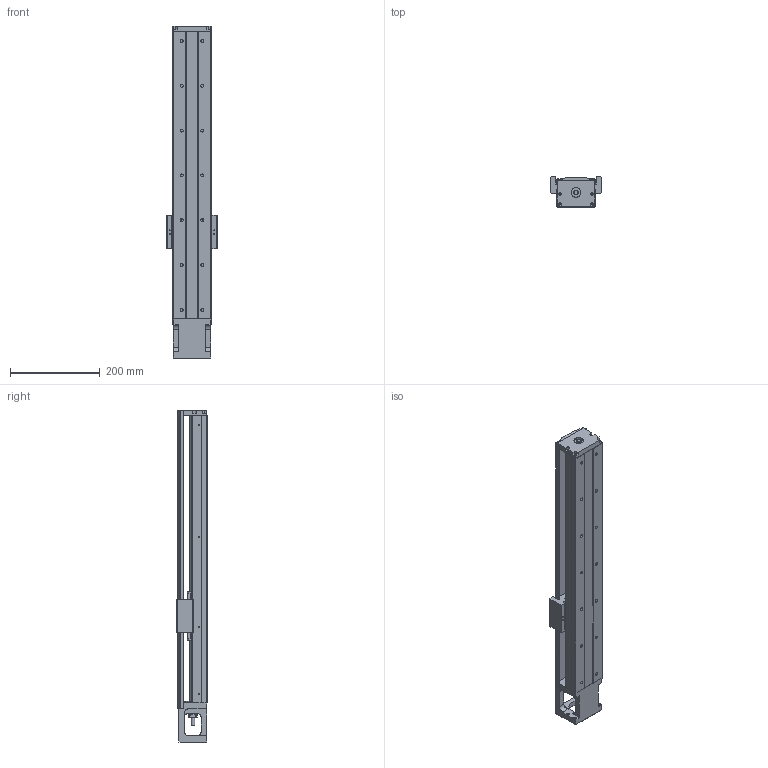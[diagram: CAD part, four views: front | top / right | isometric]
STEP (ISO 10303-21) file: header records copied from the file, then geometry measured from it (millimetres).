
FILE_DESCRIPTION(/* description */ (''),/* implementation_level */ '2;1');
FILE_NAME(/* name */ '46L-640C.stp',/* time_stamp */ '2016-12-20T13:59:42+08:00',/* author */ (''),/* organization */ (''),/* preprocessor_version */ 'ST-DEVELOPER v11',/* originating_system */ 'SIEMENS UGS NX 6.0',/* authorisation */ '');
FILE_SCHEMA (('AUTOMOTIVE_DESIGN { 1 0 10303 214 1 1 1 1 }'));
Length unit declared in the file: millimetre
Products named in the file (1): model4
Bounding box: 112 x 68 x 740 mm (x, y, z)
Volume: 1966217.9 mm3; surface area: 500728.7 mm2
Topology: 7 solids, 15 shells, 737 faces, 1929 edges, 1266 vertices
Faces by surface type: plane 346, cylinder 269, cone 61, bspline 53, torus 8
Full cylindrical faces by diameter (mm): 2.11 x4, 2.15 x8, 2.42 x8, 2.5 x4, 3 x6, 3.2 x4, 3.3 x12, 3.4 x8, 4 x4, 4.2 x4, 4.5 x8, 5 x14, 6 x8, 6.35 x2, 6.6 x14, 8 x1, 9.6 x1, 10 x3, 11 x14, 12 x1, 14.95 x2, 15 x1, 16 x2, 22 x3, 27.5 x1, 44 x1, 50 x1
Entity records: 33130 total; most frequent: CARTESIAN_POINT 13501, ORIENTED_EDGE 3316, DIRECTION 3245, EDGE_CURVE 1658, AXIS2_PLACEMENT_3D 1197, VERTEX_POINT 1187, EDGE_LOOP 1045, LINE 851
